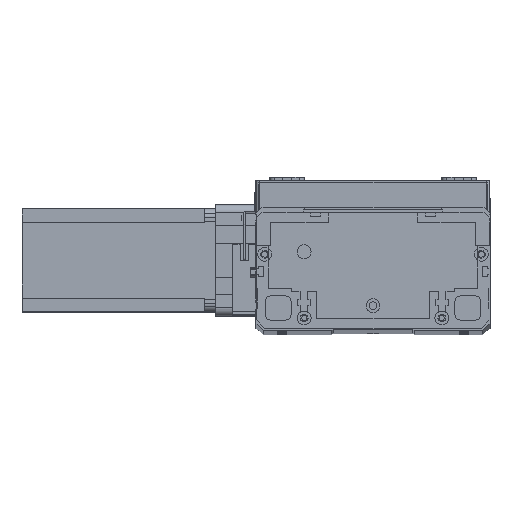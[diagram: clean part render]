
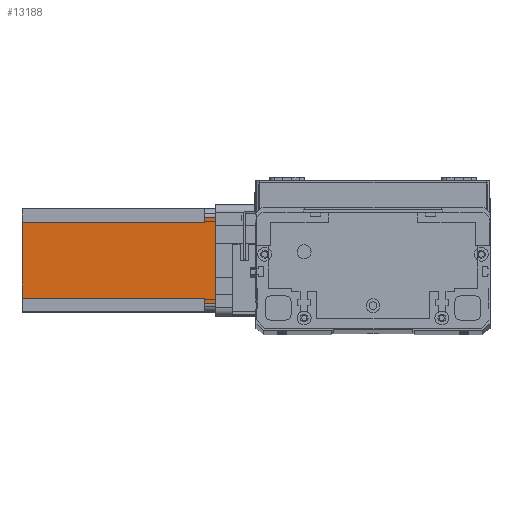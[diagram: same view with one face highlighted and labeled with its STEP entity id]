
A CAD part, top view. The second image highlights one B-rep face of the part: STEP entity #13188.
In plain terms, the highlighted planar face has unit normal (0, 0, 1) as drawn and (0, -1, 0) by its records, which use the part's own axes.
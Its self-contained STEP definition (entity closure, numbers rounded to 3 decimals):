
#990 = VECTOR ( 'NONE', #7404, 1000. ) ;
#1155 = LINE ( 'NONE', #16179, #21515 ) ;
#1497 = VECTOR ( 'NONE', #12203, 1000. ) ;
#1501 = ORIENTED_EDGE ( 'NONE', *, *, #6038, .T. ) ;
#3596 = DIRECTION ( 'NONE',  ( 1., 0., 0. ) ) ;
#3696 = DIRECTION ( 'NONE',  ( 0., 0., 1. ) ) ;
#3729 = CARTESIAN_POINT ( 'NONE',  ( 0., 0., -112.5 ) ) ;
#3812 = CARTESIAN_POINT ( 'NONE',  ( 8., 0., -112.5 ) ) ;
#4382 = CARTESIAN_POINT ( 'NONE',  ( 8., 0., -6.5 ) ) ;
#4394 = VERTEX_POINT ( 'NONE', #4382 ) ;
#4481 = CARTESIAN_POINT ( 'NONE',  ( 0., 0., -112.5 ) ) ;
#4679 = CARTESIAN_POINT ( 'NONE',  ( 55., 0., 0. ) ) ;
#4684 = EDGE_CURVE ( 'NONE', #18973, #5016, #23946, .T. ) ;
#4689 = CARTESIAN_POINT ( 'NONE',  ( 52., 0., -6.5 ) ) ;
#5016 = VERTEX_POINT ( 'NONE', #23748 ) ;
#5132 = DIRECTION ( 'NONE',  ( 1., 0., 0. ) ) ;
#5543 = EDGE_CURVE ( 'NONE', #5016, #23035, #17432, .T. ) ;
#5936 = VERTEX_POINT ( 'NONE', #10171 ) ;
#6038 = EDGE_CURVE ( 'NONE', #24284, #13660, #6570, .T. ) ;
#6080 = DIRECTION ( 'NONE',  ( 0., 0., -1. ) ) ;
#6092 = VECTOR ( 'NONE', #3596, 1000. ) ;
#6570 = LINE ( 'NONE', #7422, #990 ) ;
#6573 = DIRECTION ( 'NONE',  ( 0., -1., 0. ) ) ;
#6725 = EDGE_CURVE ( 'NONE', #4394, #13660, #18836, .T. ) ;
#7394 = LINE ( 'NONE', #3729, #6092 ) ;
#7404 = DIRECTION ( 'NONE',  ( 0., 0., -1. ) ) ;
#7422 = CARTESIAN_POINT ( 'NONE',  ( 5., 0., -112.5 ) ) ;
#8005 = ORIENTED_EDGE ( 'NONE', *, *, #9117, .F. ) ;
#8417 = EDGE_CURVE ( 'NONE', #26058, #4394, #20355, .T. ) ;
#8790 = ORIENTED_EDGE ( 'NONE', *, *, #8417, .F. ) ;
#9027 = EDGE_LOOP ( 'NONE', ( #9749, #19690, #8005, #1501, #25671, #8790, #12642, #21347 ) ) ;
#9117 = EDGE_CURVE ( 'NONE', #24284, #23035, #11876, .T. ) ;
#9457 = EDGE_CURVE ( 'NONE', #26058, #5936, #7394, .T. ) ;
#9749 = ORIENTED_EDGE ( 'NONE', *, *, #4684, .T. ) ;
#9956 = EDGE_CURVE ( 'NONE', #18973, #5936, #1155, .T. ) ;
#10171 = CARTESIAN_POINT ( 'NONE',  ( 52., 0., -112.5 ) ) ;
#10883 = CARTESIAN_POINT ( 'NONE',  ( 8., 0., -112.5 ) ) ;
#11611 = CARTESIAN_POINT ( 'NONE',  ( 0., 0., 0. ) ) ;
#11728 = FACE_OUTER_BOUND ( 'NONE', #9027, .T. ) ;
#11876 = LINE ( 'NONE', #11611, #1497 ) ;
#12095 = VECTOR ( 'NONE', #21797, 1000. ) ;
#12203 = DIRECTION ( 'NONE',  ( 1., 0., 0. ) ) ;
#12642 = ORIENTED_EDGE ( 'NONE', *, *, #9457, .T. ) ;
#13188 = ADVANCED_FACE ( 'NONE', ( #11728 ), #16640, .T. ) ;
#13660 = VERTEX_POINT ( 'NONE', #14474 ) ;
#14474 = CARTESIAN_POINT ( 'NONE',  ( 5., 0., -6.5 ) ) ;
#15017 = VECTOR ( 'NONE', #3696, 1000. ) ;
#16179 = CARTESIAN_POINT ( 'NONE',  ( 52., 0., -112.5 ) ) ;
#16640 = PLANE ( 'NONE',  #24230 ) ;
#17432 = LINE ( 'NONE', #21772, #12095 ) ;
#18664 = VECTOR ( 'NONE', #5132, 1000. ) ;
#18751 = CARTESIAN_POINT ( 'NONE',  ( 52., 0., -6.5 ) ) ;
#18836 = LINE ( 'NONE', #25055, #22230 ) ;
#18973 = VERTEX_POINT ( 'NONE', #18751 ) ;
#19690 = ORIENTED_EDGE ( 'NONE', *, *, #5543, .T. ) ;
#20334 = CARTESIAN_POINT ( 'NONE',  ( 5., 0., 0. ) ) ;
#20355 = LINE ( 'NONE', #3812, #15017 ) ;
#20667 = DIRECTION ( 'NONE',  ( 0., 0., -1. ) ) ;
#21347 = ORIENTED_EDGE ( 'NONE', *, *, #9956, .F. ) ;
#21515 = VECTOR ( 'NONE', #6080, 1000. ) ;
#21772 = CARTESIAN_POINT ( 'NONE',  ( 55., 0., -112.5 ) ) ;
#21797 = DIRECTION ( 'NONE',  ( 0., 0., 1. ) ) ;
#22230 = VECTOR ( 'NONE', #25331, 1000. ) ;
#23035 = VERTEX_POINT ( 'NONE', #4679 ) ;
#23748 = CARTESIAN_POINT ( 'NONE',  ( 55., 0., -6.5 ) ) ;
#23946 = LINE ( 'NONE', #4689, #18664 ) ;
#24230 = AXIS2_PLACEMENT_3D ( 'NONE', #4481, #6573, #20667 ) ;
#24284 = VERTEX_POINT ( 'NONE', #20334 ) ;
#25055 = CARTESIAN_POINT ( 'NONE',  ( 8., 0., -6.5 ) ) ;
#25331 = DIRECTION ( 'NONE',  ( -1., 0., 0. ) ) ;
#25671 = ORIENTED_EDGE ( 'NONE', *, *, #6725, .F. ) ;
#26058 = VERTEX_POINT ( 'NONE', #10883 ) ;
